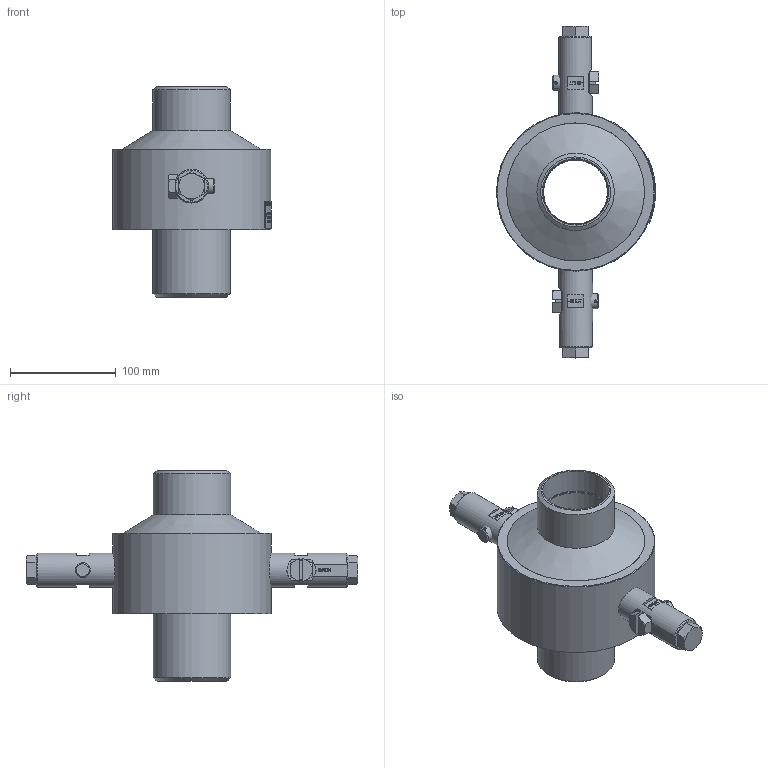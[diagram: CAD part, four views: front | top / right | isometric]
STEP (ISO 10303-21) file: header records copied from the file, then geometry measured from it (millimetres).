
FILE_DESCRIPTION(/* description */ (''),/* implementation_level */ '2;1');
FILE_NAME(/* name */ 'C:\001_Work\Designs\BALL JOINT\2.5 in Ball Joint Assem(Round PP).stp',/* time_stamp */ '2015-02-23T10:12:44-05:00',/* author */ ('mleuck'),/* organization */ (''),/* preprocessor_version */ 'ST-DEVELOPER v15.2',/* originating_system */ 'Autodesk Inventor 2014',/* authorisation */ '');
FILE_SCHEMA (('AUTOMOTIVE_DESIGN { 1 0 10303 214 3 1 1 }'));
Length unit declared in the file: inch
Products named in the file (15): 2.5 in BALL JOINT THREADED RING; 2.5 IN Restraining Ring; 2.5 IN Hard Packing; 2.5 IN Soft Packing; ANSI B18.3.6M - M6x1 x 6(8); 2.5 IN BALL JOINT NIPPLE; 2.5 IN BALL JOINT HOUSING; 2.5 in Inside Ball; Plug-ROUND(long)-8-1-14 (2-3_INCH SIZE); M14x1.5x35Long(FineThread)-shutoffvalve-(8-1-14); M16x2x30 Long-PackingBolt; IFI 512-S - 2.514; Plug Assem(NewRound)(long)(8-1-14)(2-3_inch); 2.5inch - decal; 2.5 in Ball Joint Assem(Round PP)
Bounding box: 150.02 x 313.21 x 198.44 mm (x, y, z)
Volume: 1379014.5 mm3; surface area: 356407.5 mm2
Topology: 20 solids, 20 shells, 1772 faces, 4688 edges, 3112 vertices
Faces by surface type: plane 876, bspline 649, cylinder 173, cone 64, sphere 6, torus 4
Full cylindrical faces by diameter (mm): 2.5 x2, 3.03 x2, 6 x6, 8 x2, 11.75 x2, 11.836 x2, 13.843 x2, 14 x2, 15 x2, 16 x2, 32 x4, 61.595 x1, 62.713 x2, 73.025 x2, 98.425 x1, 130.173 x1, 130.175 x4, 130.2 x2, 149.225 x1
Entity records: 60960 total; most frequent: CARTESIAN_POINT 26027, ORIENTED_EDGE 7804, DIRECTION 5204, EDGE_CURVE 3902, VERTEX_POINT 2623, LINE 1966, VECTOR 1966, EDGE_LOOP 1717
